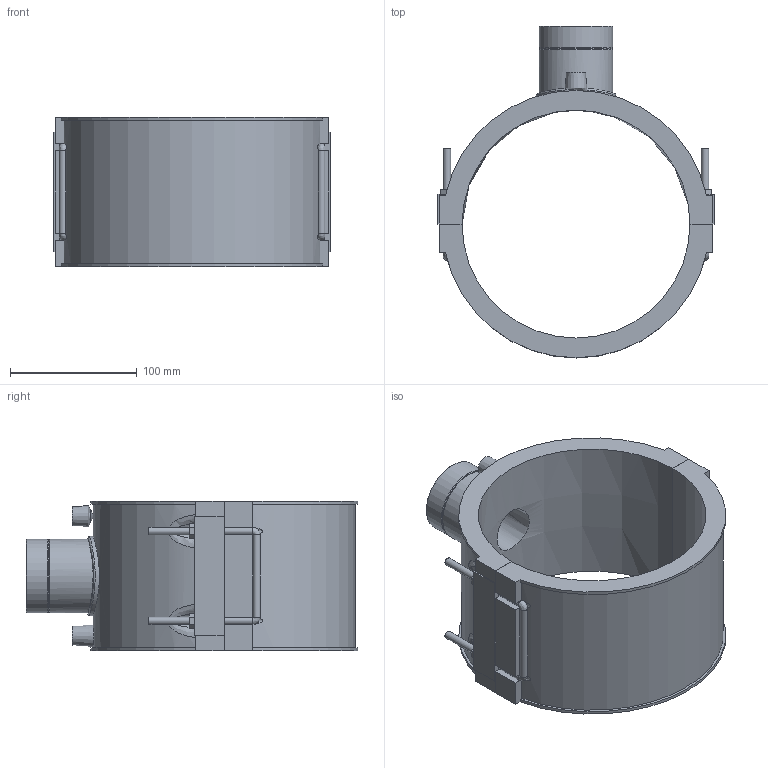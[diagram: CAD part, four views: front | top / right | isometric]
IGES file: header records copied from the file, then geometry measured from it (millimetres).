
Global section: file name: 493804180015.ipt; native system: Autodesk Inventor 2015; preprocessor: unknown; author: KIM; date: 20171106.094111; units: millimetre
Bounding box: 218 x 262.07 x 118 mm (x, y, z)
Volume: 1104462 mm3; surface area: 202849.2 mm2
Topology: 2 solids, 4 shells, 162 faces, 408 edges, 258 vertices
Faces by surface type: plane 98, cylinder 28, revolution 14, bspline 13, cone 9
Full cylindrical faces by diameter (mm): 4 x2, 6 x8, 57.298 x1, 58.298 x2, 62.783 x1
